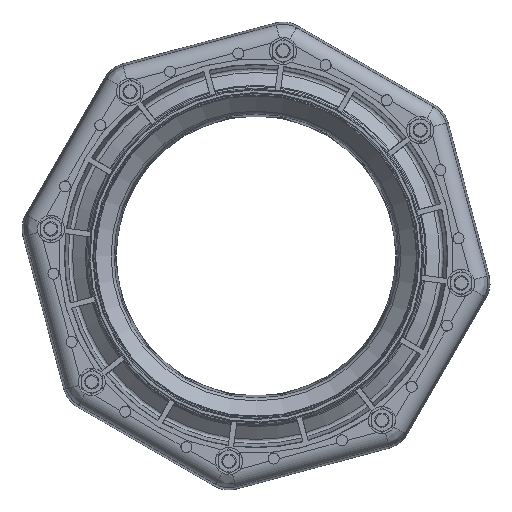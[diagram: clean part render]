
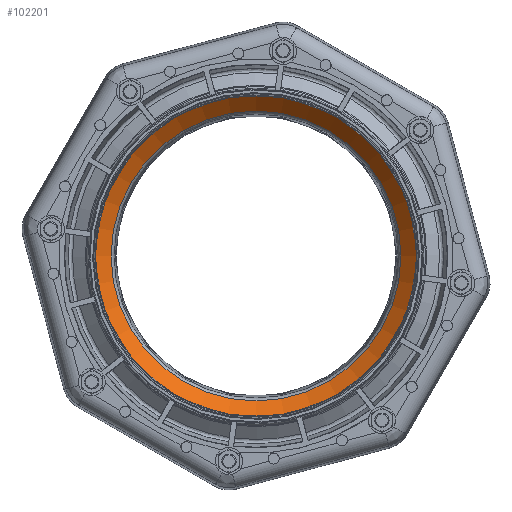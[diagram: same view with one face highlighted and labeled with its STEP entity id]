
A CAD part, left-side view. The second image highlights one B-rep face of the part: STEP entity #102201.
In plain terms, the highlighted conical face has half-angle 45.844 degrees and reference radius 168.99 mm.
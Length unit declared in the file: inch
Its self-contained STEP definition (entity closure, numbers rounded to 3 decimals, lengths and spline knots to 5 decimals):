
#102167=CARTESIAN_POINT('',(-5.78779,-6.99303,0.0));
#102168=VERTEX_POINT('',#102167);
#102169=CARTESIAN_POINT('',(-5.78779,0.,0.0));
#102170=DIRECTION('',(-1.0,0.0,0.0));
#102171=DIRECTION('',(0.0,-1.0,0.0));
#102172=AXIS2_PLACEMENT_3D('',#102169,#102170,#102171);
#102173=CIRCLE('',#102172,6.99303);
#102174=EDGE_CURVE('',#102168,#102168,#102173,.T.);
#102182=CARTESIAN_POINT('',(-5.45778,0.,0.0));
#102183=DIRECTION('',(-1.0,0.0,0.0));
#102184=DIRECTION('',(0.0,-1.0,0.0));
#102185=AXIS2_PLACEMENT_3D('',#102182,#102183,#102184);
#102186=CONICAL_SURFACE('',#102185,6.65316,45.844);
#102187=CARTESIAN_POINT('',(-5.12778,-6.31328,0.0));
#102188=VERTEX_POINT('',#102187);
#102189=CARTESIAN_POINT('',(-5.12778,0.,0.0));
#102190=DIRECTION('',(-1.0,0.0,0.0));
#102191=DIRECTION('',(0.0,-1.0,0.0));
#102192=AXIS2_PLACEMENT_3D('',#102189,#102190,#102191);
#102193=CIRCLE('',#102192,6.31328);
#102194=EDGE_CURVE('',#102188,#102188,#102193,.T.);
#102195=ORIENTED_EDGE('',*,*,#102194,.F.);
#102196=EDGE_LOOP('',(#102195));
#102197=FACE_OUTER_BOUND('',#102196,.T.);
#102198=ORIENTED_EDGE('',*,*,#102174,.T.);
#102199=EDGE_LOOP('',(#102198));
#102200=FACE_BOUND('',#102199,.T.);
#102201=ADVANCED_FACE('',(#102197,#102200),#102186,.F.);
